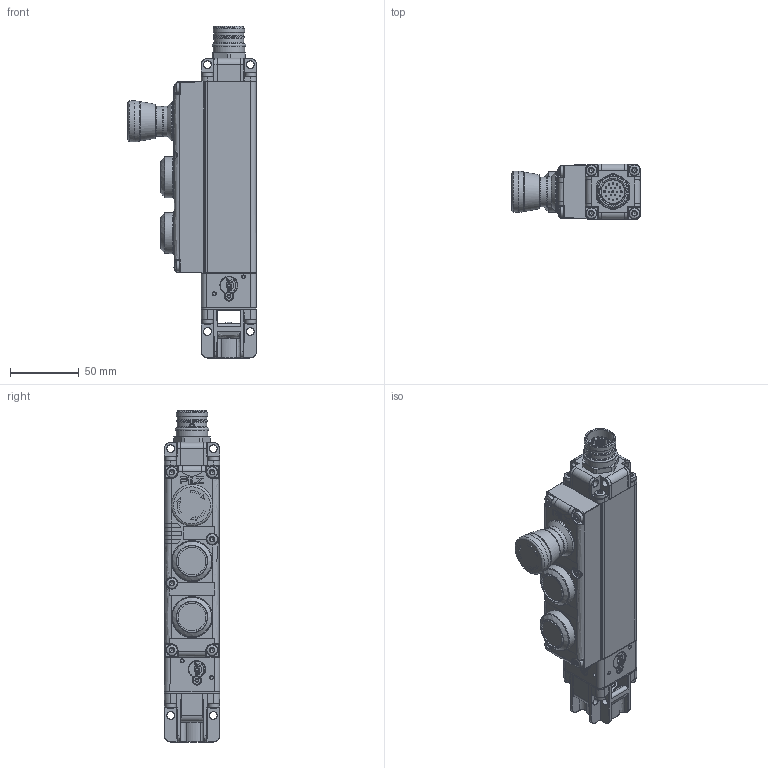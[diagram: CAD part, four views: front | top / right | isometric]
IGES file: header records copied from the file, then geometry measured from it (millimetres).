
Global section: file name: 2038010_A_PSENmg1-A-xxxxx-Rxxx-Ux-U; native system: Autodesk Inventor 2024; preprocessor: unknown; author: prim; date: 20250815.112642; units: millimetre
Bounding box: 93.5 x 40 x 240.7 mm (x, y, z)
Volume: 446867.4 mm3; surface area: 65692.5 mm2
Topology: 1 solids, 1 shells, 1942 faces, 5045 edges, 3131 vertices
Faces by surface type: bspline 1942
